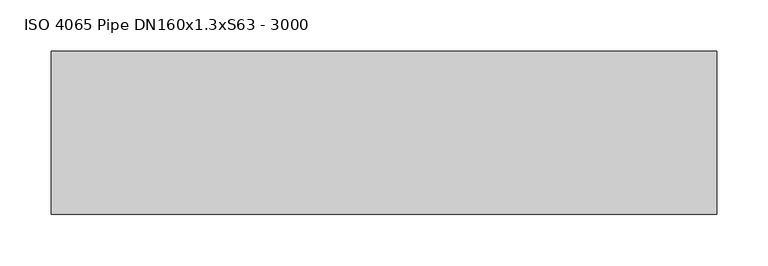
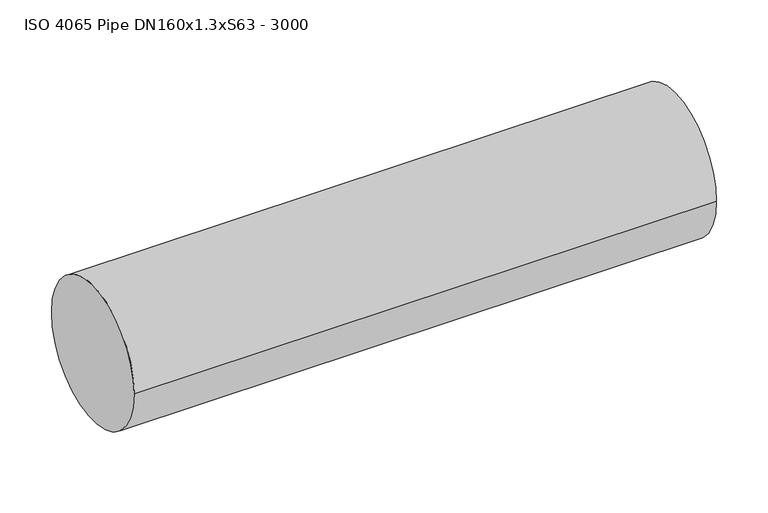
"""IFC4 building model written with IfcOpenShell, lengths in millimetres: proxy geometry, ISO 4065 Pipe DN160x1.3xS63 - 3000."""

from ifc_helpers import new_model, si_unit, frame, origin, place, context, project, spatial, circle_curve, source, transform, mapped, element, save
from ifc_brep_helpers import plane_surface, cylinder_surface, advanced_brep


def iso_4065_pipe_dn160x1_3xs63_3000_fc94910c(model_context):
    return source(origin(), model_context, "Body", "AdvancedBrep", [
        advanced_brep(
        [(0.0, -80.0, 0.0), (652.0, -80.0, 0.0), (652.0, 0.0, 80.0), (652.0, 80.0, 0.0), (0.0, 80.0, 0.0)],
        [
            (0, 1),
            (1, 2, circle_curve(frame((652.0, 0.0, 0.0), z_axis=(-1.0, 0.0, 0.0), x_axis=(0.0, -1.0, 0.0)), 80.0)),
            (2, 3, circle_curve(frame((652.0, 0.0, 0.0), z_axis=(-1.0, 0.0, 0.0), x_axis=(0.0, -1.0, 0.0)), 80.0)),
            (3, 4),
            (4, 0, circle_curve(frame((0.0, 0.0, 0.0), z_axis=(1.0, 0.0, 0.0), x_axis=(0.0, -1.0, 0.0)), 80.0)),
            (4, 0, circle_curve(frame((0.0, 0.0, 0.0), z_axis=(-1.0, 0.0, 0.0), x_axis=(0.0, -1.0, 0.0)), 80.0)),
            (1, 3, circle_curve(frame((652.0, 0.0, 0.0), z_axis=(1.0, 0.0, 0.0), x_axis=(0.0, -1.0, 0.0)), 80.0)),
        ],
        [
            cylinder_surface(frame((0.0, 0.0, 0.0), z_axis=(1.0, 0.0, 0.0), x_axis=(0.0, -1.0, 0.0)), 80.0),
            plane_surface(frame((0.0, 0.0, 0.0), z_axis=(-1.0, 0.0, 0.0), x_axis=(0.0, 0.0, 1.0))),
            plane_surface(frame((652.0, 0.0, 0.0), z_axis=(1.0, 0.0, 0.0), x_axis=(0.0, 0.0, 1.0))),
        ],
        [
            (0, [[1, 2, 3, 4, 5]]),
            (1, [[6, -5]]),
            (2, [[-3, -2, 7]]),
            (0, [[-1, -6, -4, -7]]),
        ],
    ),
    ])


if __name__ == "__main__":
    model = new_model("IFC4")
    model_context = context("Model", 3, world=origin())
    ifc_project = project(units=[si_unit("LENGTHUNIT", "METRE", prefix="MILLI")], contexts=[model_context])
    site = spatial("IfcSite", under=ifc_project)
    building = spatial("IfcBuilding", under=site)
    placement = place(None, origin())
    iso_4065_pipe_dn160x1_3xs63_3000_shape = iso_4065_pipe_dn160x1_3xs63_3000_fc94910c(model_context)
    element("IfcBuildingElementProxy", 1, Name="ISO 4065 Pipe DN160x1.3xS63 - 3000", ObjectType="ISO 4065 Pipe DN160x1.3xS63 - 3000", at=placement, inside=building, context=model_context, shape_type="MappedRepresentation", body=[
        mapped(iso_4065_pipe_dn160x1_3xs63_3000_shape, transform((0.0, 0.0, 0.0), x_axis=(1.0, 0.0, 0.0), y_axis=(0.0, 1.0, 0.0), z_axis=(0.0, 0.0, 1.0))),
    ])
    save(model, "model.ifc")
